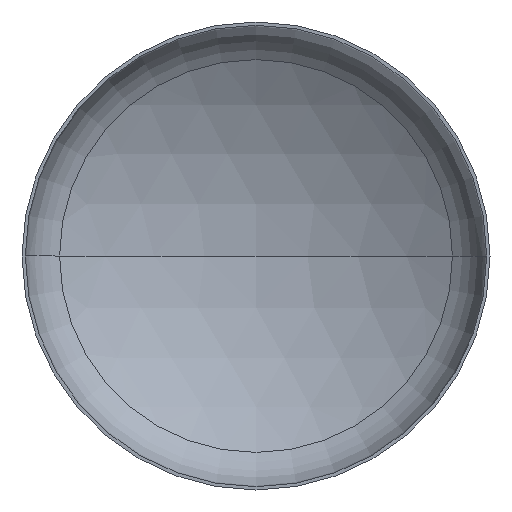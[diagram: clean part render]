
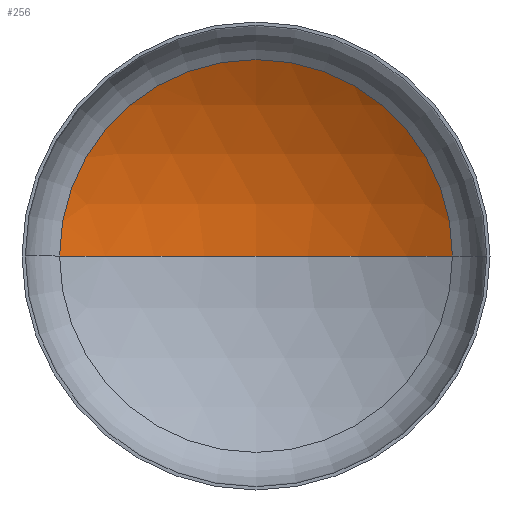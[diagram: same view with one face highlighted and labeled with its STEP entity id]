
A CAD part, front view. The second image highlights one B-rep face of the part: STEP entity #256.
In plain terms, the highlighted spherical face has radius 3040 mm.
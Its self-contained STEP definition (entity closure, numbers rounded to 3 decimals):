
#2 = AXIS2_PLACEMENT_3D ( 'NONE', #93, #324, #326 ) ;
#7 = CARTESIAN_POINT ( 'NONE',  ( 0., -2004.995, 0. ) ) ;
#13 = AXIS2_PLACEMENT_3D ( 'NONE', #7, #86, #91 ) ;
#16 = CARTESIAN_POINT ( 'NONE',  ( -1594.916, 583.023, 0. ) ) ;
#32 = AXIS2_PLACEMENT_3D ( 'NONE', #139, #136, #151 ) ;
#35 = ORIENTED_EDGE ( 'NONE', *, *, #130, .T. ) ;
#49 = AXIS2_PLACEMENT_3D ( 'NONE', #77, #150, #171 ) ;
#65 = EDGE_LOOP ( 'NONE', ( #210, #224, #35 ) ) ;
#77 = CARTESIAN_POINT ( 'NONE',  ( 0., 583.023, 0. ) ) ;
#86 = DIRECTION ( 'NONE',  ( 0., 0., -1. ) ) ;
#91 = DIRECTION ( 'NONE',  ( -1., 0., 0. ) ) ;
#93 = CARTESIAN_POINT ( 'NONE',  ( 0., -2004.995, 0. ) ) ;
#126 = VERTEX_POINT ( 'NONE', #192 ) ;
#130 = EDGE_CURVE ( 'NONE', #126, #339, #368, .T. ) ;
#136 = DIRECTION ( 'NONE',  ( 0., 0., -1. ) ) ;
#139 = CARTESIAN_POINT ( 'NONE',  ( 0., -2004.995, 0. ) ) ;
#150 = DIRECTION ( 'NONE',  ( 0., -1., 0. ) ) ;
#151 = DIRECTION ( 'NONE',  ( -1., 0., 0. ) ) ;
#171 = DIRECTION ( 'NONE',  ( 1., 0., 0. ) ) ;
#184 = CIRCLE ( 'NONE', #2, 3040. ) ;
#192 = CARTESIAN_POINT ( 'NONE',  ( 1594.916, 583.023, 0. ) ) ;
#198 = VERTEX_POINT ( 'NONE', #290 ) ;
#210 = ORIENTED_EDGE ( 'NONE', *, *, #367, .F. ) ;
#224 = ORIENTED_EDGE ( 'NONE', *, *, #366, .T. ) ;
#256 = ADVANCED_FACE ( 'NONE', ( #354 ), #295, .F. ) ;
#290 = CARTESIAN_POINT ( 'NONE',  ( 0., 1035.005, 0. ) ) ;
#295 = SPHERICAL_SURFACE ( 'NONE', #32, 3040. ) ;
#324 = DIRECTION ( 'NONE',  ( 0., 0., 1. ) ) ;
#326 = DIRECTION ( 'NONE',  ( 1., 0., 0. ) ) ;
#339 = VERTEX_POINT ( 'NONE', #16 ) ;
#354 = FACE_OUTER_BOUND ( 'NONE', #65, .T. ) ;
#366 = EDGE_CURVE ( 'NONE', #198, #126, #410, .T. ) ;
#367 = EDGE_CURVE ( 'NONE', #198, #339, #184, .T. ) ;
#368 = CIRCLE ( 'NONE', #49, 1594.916 ) ;
#410 = CIRCLE ( 'NONE', #13, 3040. ) ;
